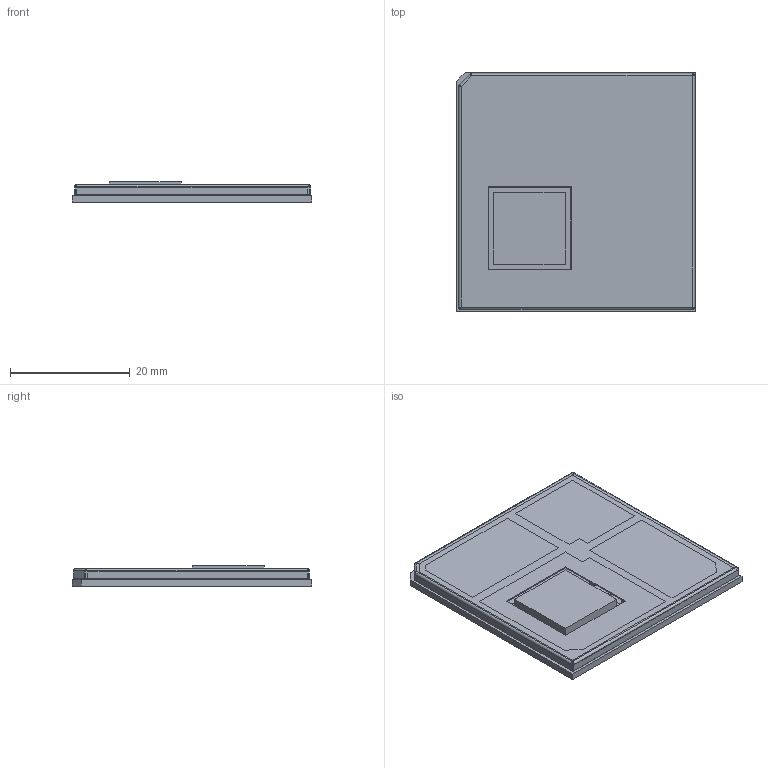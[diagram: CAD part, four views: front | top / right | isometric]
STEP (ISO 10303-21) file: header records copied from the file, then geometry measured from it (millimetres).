
FILE_DESCRIPTION(/* description */ ('PCB Design'),/* implementation_level */ '2;1');
FILE_NAME(/* name */ 'LGA-RK3562-C-V10-3D',/* time_stamp */ '2025-09-26T10:57:32+08:00',/* author */ (''),/* organization */ (''),/* preprocessor_version */ 'ST-DEVELOPER v16',/* originating_system */ 'allegro_17.4S037',/* authorisation */ '');
FILE_SCHEMA (('AP242_MANAGED_MODEL_BASED_3D_ENGINEERING_MIM_LF { 1 0 10303 442 1 1 4 }'));
Products named in the file (39): LGA-RK3562-C-V10-3D; BOARD_OUTLINE; COMPONENTS; DRD; PBZJ-LGA-RK3562; PBZ-LGA-RK3562; C0201; IND2520; BGA478_13R90X13R90X0R95; BGA200_15R00X10R00X0R90; 0402_CC; SOT23-5; 0603_CC; Y3025; SOT23; FC-135; R0805; QFN68_7R00X7R00X0R80_T; BGA153_13RX11R5X0R9_2L; IND1206; 12120001_5; RP-351X-DV5000001; RP-351X-DV500-000; User Library-Chip Cap_MLCC_0201 (0603); 3; PRT0001; PRT0174; User Library-CAPC_0402_CAPC_0402_Lead_1; User Library-CAPC_0402; User Library-CAPC_0402_CAPC_0402_Body_1; SOT-23-5; User Library-cap_0603_lowprofile; 1; SOT-23-3; 2; PMU; EMMC; User Library-res1206-1
Assembly tree (248 placements, depth 5):
  LGA-RK3562-C-V10-3D
    BOARD_OUTLINE
    COMPONENTS
      DRD
        12120001_5
      PBZJ-LGA-RK3562
        RP-351X-DV5000001
      PBZ-LGA-RK3562
        RP-351X-DV500-000
      C0201  x13
        User Library-Chip Cap_MLCC_0201 (0603)
      IND2520  x3
        3
      BGA478_13R90X13R90X0R95
        PRT0001
      BGA200_15R00X10R00X0R90
        PRT0174
      0402_CC  x155
        User Library-CAPC_0402
          User Library-CAPC_0402_CAPC_0402_Lead_1  x2
          User Library-CAPC_0402_CAPC_0402_Body_1
      SOT23-5  x3
        SOT-23-5
      0603_CC  x35
        User Library-cap_0603_lowprofile
      Y3025
        1
      SOT23  x2
        SOT-23-3
      FC-135
        2
      R0805
        R0805
      QFN68_7R00X7R00X0R80_T
        PMU
      BGA153_13RX11R5X0R9_2L
        EMMC
      IND1206  x5
        User Library-res1206-1
Bounding box: 40 x 40 x 3.4 mm (x, y, z)
Volume: 1244.3 mm3; surface area: 10586.2 mm2
Topology: 561 solids, 562 shells, 6941 faces, 16331 edges, 10328 vertices
Faces by surface type: plane 4670, cylinder 1092, bspline 887, sphere 280, cone 12
Entity records: 71022 total; most frequent: CARTESIAN_POINT 27130, ORIENTED_EDGE 6596, DIRECTION 5421, EDGE_CURVE 3299, VECTOR 3085, LINE 3085, PRESENTATION_STYLE_ASSIGNMENT 2462, STYLED_ITEM 2431
